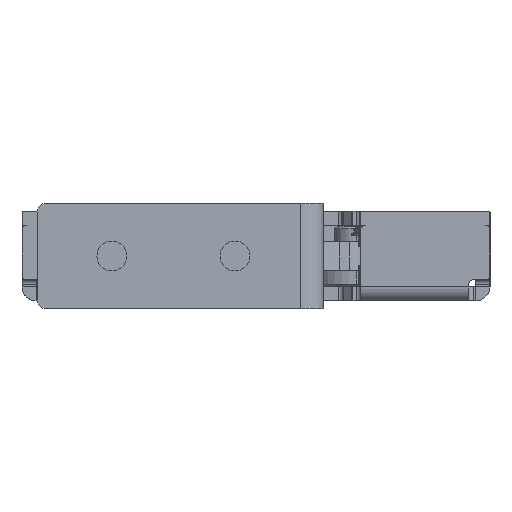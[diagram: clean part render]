
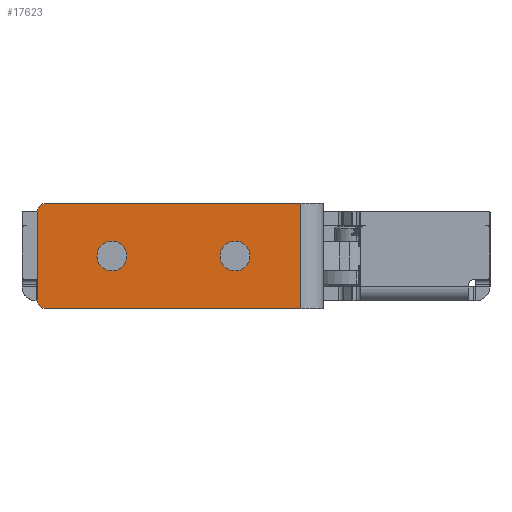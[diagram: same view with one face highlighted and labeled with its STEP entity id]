
A CAD part, left-side view. The second image highlights one B-rep face of the part: STEP entity #17623.
In plain terms, the highlighted planar face has unit normal (-1, -0.001, 0) as drawn and (1, 0, 0) by its records, which use the part's own axes.
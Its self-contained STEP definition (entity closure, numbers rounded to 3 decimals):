
#16 = AXIS2_PLACEMENT_3D ( 'NONE', #4611, #24494, #24397 ) ;
#739 = CARTESIAN_POINT ( 'NONE',  ( 2.6, 21.5, 6. ) ) ;
#1233 = AXIS2_PLACEMENT_3D ( 'NONE', #23739, #4423, #15265 ) ;
#2316 = LINE ( 'NONE', #2817, #19370 ) ;
#2354 = EDGE_CURVE ( 'NONE', #22570, #10869, #19695, .T. ) ;
#2372 = EDGE_CURVE ( 'NONE', #2508, #28023, #2316, .T. ) ;
#2508 = VERTEX_POINT ( 'NONE', #11768 ) ;
#2732 = EDGE_CURVE ( 'NONE', #13064, #12030, #12925, .T. ) ;
#2817 = CARTESIAN_POINT ( 'NONE',  ( 2.6, 30., 0. ) ) ;
#2923 = DIRECTION ( 'NONE',  ( 0., -1., 0. ) ) ;
#3487 = EDGE_LOOP ( 'NONE', ( #19764, #10003, #17303, #21132, #7078, #23127 ) ) ;
#3849 = DIRECTION ( 'NONE',  ( -1., 0., 0. ) ) ;
#3989 = AXIS2_PLACEMENT_3D ( 'NONE', #27791, #3849, #27887 ) ;
#4012 = AXIS2_PLACEMENT_3D ( 'NONE', #6338, #15187, #10603 ) ;
#4088 = DIRECTION ( 'NONE',  ( 0., 0., -1. ) ) ;
#4423 = DIRECTION ( 'NONE',  ( -1., 0., 0. ) ) ;
#4611 = CARTESIAN_POINT ( 'NONE',  ( 2.6, 29., 1. ) ) ;
#4837 = LINE ( 'NONE', #14733, #22515 ) ;
#5389 = AXIS2_PLACEMENT_3D ( 'NONE', #17555, #13283, #8602 ) ;
#5885 = DIRECTION ( 'NONE',  ( 0., 0., -1. ) ) ;
#6299 = VERTEX_POINT ( 'NONE', #23864 ) ;
#6338 = CARTESIAN_POINT ( 'NONE',  ( 2.6, 29., 11. ) ) ;
#6423 = FACE_OUTER_BOUND ( 'NONE', #3487, .T. ) ;
#6458 = CARTESIAN_POINT ( 'NONE',  ( 2.6, 0., 0. ) ) ;
#7078 = ORIENTED_EDGE ( 'NONE', *, *, #10328, .T. ) ;
#7821 = PLANE ( 'NONE',  #27653 ) ;
#8103 = DIRECTION ( 'NONE',  ( 0., 0., -1. ) ) ;
#8232 = EDGE_CURVE ( 'NONE', #13064, #14472, #4837, .T. ) ;
#8339 = CARTESIAN_POINT ( 'NONE',  ( 2.6, 0., 0. ) ) ;
#8483 = VERTEX_POINT ( 'NONE', #15443 ) ;
#8602 = DIRECTION ( 'NONE',  ( 0., 0., 1. ) ) ;
#8652 = VECTOR ( 'NONE', #18300, 1000. ) ;
#9107 = VECTOR ( 'NONE', #4088, 1000. ) ;
#9265 = EDGE_LOOP ( 'NONE', ( #24308, #22438 ) ) ;
#9442 = CARTESIAN_POINT ( 'NONE',  ( 2.6, 30., 12. ) ) ;
#9660 = CIRCLE ( 'NONE', #1233, 1.7 ) ;
#10003 = ORIENTED_EDGE ( 'NONE', *, *, #24625, .T. ) ;
#10328 = EDGE_CURVE ( 'NONE', #12030, #27807, #23985, .T. ) ;
#10603 = DIRECTION ( 'NONE',  ( 0., 0., -1. ) ) ;
#10846 = CIRCLE ( 'NONE', #5389, 1.7 ) ;
#10869 = VERTEX_POINT ( 'NONE', #14643 ) ;
#11650 = CIRCLE ( 'NONE', #3989, 1.7 ) ;
#11699 = CARTESIAN_POINT ( 'NONE',  ( 2.6, 0., 12. ) ) ;
#11768 = CARTESIAN_POINT ( 'NONE',  ( 2.6, 29., 0. ) ) ;
#12030 = VERTEX_POINT ( 'NONE', #12192 ) ;
#12070 = CARTESIAN_POINT ( 'NONE',  ( 2.6, 21.5, 4.3 ) ) ;
#12192 = CARTESIAN_POINT ( 'NONE',  ( 2.6, 29., 12. ) ) ;
#12212 = FACE_BOUND ( 'NONE', #18820, .T. ) ;
#12925 = CIRCLE ( 'NONE', #4012, 1. ) ;
#13064 = VERTEX_POINT ( 'NONE', #20181 ) ;
#13283 = DIRECTION ( 'NONE',  ( -1., 0., 0. ) ) ;
#13683 = DIRECTION ( 'NONE',  ( 0., 0., 1. ) ) ;
#13892 = LINE ( 'NONE', #6458, #9107 ) ;
#14391 = AXIS2_PLACEMENT_3D ( 'NONE', #739, #26665, #13683 ) ;
#14472 = VERTEX_POINT ( 'NONE', #20987 ) ;
#14643 = CARTESIAN_POINT ( 'NONE',  ( 2.6, 21.5, 7.7 ) ) ;
#14733 = CARTESIAN_POINT ( 'NONE',  ( 2.6, 30., 12. ) ) ;
#15187 = DIRECTION ( 'NONE',  ( 1., 0., 0. ) ) ;
#15265 = DIRECTION ( 'NONE',  ( 0., 0., 1. ) ) ;
#15344 = ORIENTED_EDGE ( 'NONE', *, *, #2354, .T. ) ;
#15443 = CARTESIAN_POINT ( 'NONE',  ( 2.6, 7.5, 7.7 ) ) ;
#16686 = CARTESIAN_POINT ( 'NONE',  ( 2.6, 30., 12. ) ) ;
#17303 = ORIENTED_EDGE ( 'NONE', *, *, #8232, .F. ) ;
#17305 = EDGE_CURVE ( 'NONE', #6299, #8483, #10846, .T. ) ;
#17555 = CARTESIAN_POINT ( 'NONE',  ( 2.6, 7.5, 6. ) ) ;
#17623 = ADVANCED_FACE ( 'NONE', ( #12212, #27584, #6423 ), #7821, .T. ) ;
#18300 = DIRECTION ( 'NONE',  ( 0., -1., 0. ) ) ;
#18412 = EDGE_CURVE ( 'NONE', #27807, #28023, #13892, .T. ) ;
#18820 = EDGE_LOOP ( 'NONE', ( #21138, #15344 ) ) ;
#19370 = VECTOR ( 'NONE', #2923, 1000. ) ;
#19695 = CIRCLE ( 'NONE', #14391, 1.7 ) ;
#19764 = ORIENTED_EDGE ( 'NONE', *, *, #2372, .F. ) ;
#20181 = CARTESIAN_POINT ( 'NONE',  ( 2.6, 30., 11. ) ) ;
#20987 = CARTESIAN_POINT ( 'NONE',  ( 2.6, 30., 1. ) ) ;
#21069 = EDGE_CURVE ( 'NONE', #10869, #22570, #9660, .T. ) ;
#21132 = ORIENTED_EDGE ( 'NONE', *, *, #2732, .T. ) ;
#21138 = ORIENTED_EDGE ( 'NONE', *, *, #21069, .T. ) ;
#22174 = EDGE_CURVE ( 'NONE', #8483, #6299, #11650, .T. ) ;
#22438 = ORIENTED_EDGE ( 'NONE', *, *, #17305, .T. ) ;
#22515 = VECTOR ( 'NONE', #5885, 1000. ) ;
#22570 = VERTEX_POINT ( 'NONE', #12070 ) ;
#23085 = CIRCLE ( 'NONE', #16, 1. ) ;
#23127 = ORIENTED_EDGE ( 'NONE', *, *, #18412, .T. ) ;
#23739 = CARTESIAN_POINT ( 'NONE',  ( 2.6, 21.5, 6. ) ) ;
#23864 = CARTESIAN_POINT ( 'NONE',  ( 2.6, 7.5, 4.3 ) ) ;
#23985 = LINE ( 'NONE', #9442, #8652 ) ;
#24308 = ORIENTED_EDGE ( 'NONE', *, *, #22174, .T. ) ;
#24397 = DIRECTION ( 'NONE',  ( 0., 0., -1. ) ) ;
#24494 = DIRECTION ( 'NONE',  ( 1., 0., 0. ) ) ;
#24625 = EDGE_CURVE ( 'NONE', #2508, #14472, #23085, .T. ) ;
#25364 = DIRECTION ( 'NONE',  ( 1., 0., 0. ) ) ;
#26665 = DIRECTION ( 'NONE',  ( -1., 0., 0. ) ) ;
#27584 = FACE_BOUND ( 'NONE', #9265, .T. ) ;
#27653 = AXIS2_PLACEMENT_3D ( 'NONE', #16686, #25364, #8103 ) ;
#27791 = CARTESIAN_POINT ( 'NONE',  ( 2.6, 7.5, 6. ) ) ;
#27807 = VERTEX_POINT ( 'NONE', #11699 ) ;
#27887 = DIRECTION ( 'NONE',  ( 0., 0., 1. ) ) ;
#28023 = VERTEX_POINT ( 'NONE', #8339 ) ;
